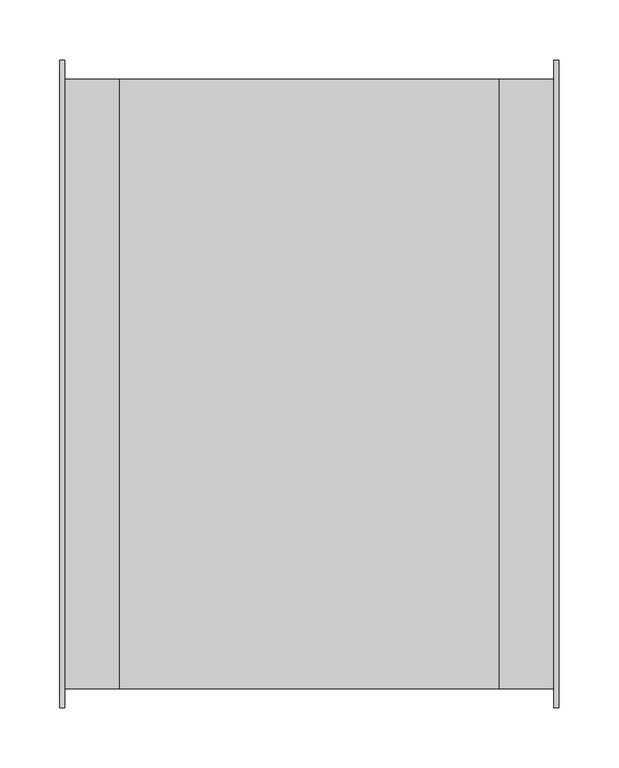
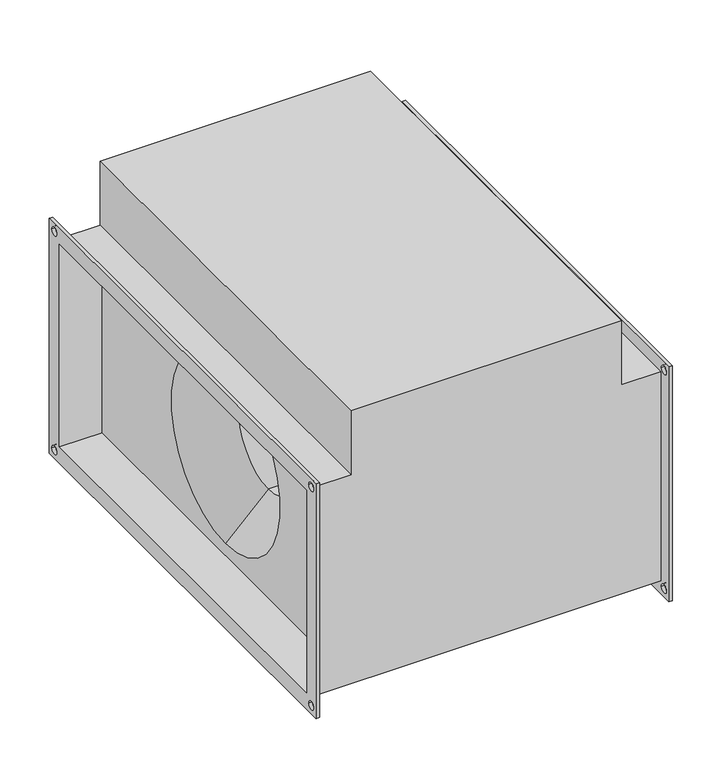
"""IFC4 building model written with IfcOpenShell, lengths in millimetres: proxy geometry, СВ_Вентилятор_КанальныйПрямоугольный_200-1000_SVPS : SVPS-500x250/22.2D."""

from ifc_helpers import new_model, si_unit, frame, origin, place, context, project, spatial, polyline, circle_curve, source, transform, mapped, element, save
from ifc_brep_helpers import plane_surface, revolved_surface, advanced_brep


def mechanical_equipment_ee68b9a7(model_context):
    return source(origin(), model_context, "Body", "AdvancedBrep", [
        advanced_brep(
        [(-204.0, -254.0, 129.0), (-158.0, -254.0, 129.0), (-158.0, 254.0, 129.0), (-204.0, 254.0, 129.0), (158.0, 254.0, 208.0), (158.0, -254.0, 208.0), (158.0, -254.0, 129.0), (158.0, 254.0, 129.0), (158.0, 250.0, -125.0), (158.0, 250.0, 125.0), (158.0, -250.0, 125.0), (158.0, -250.0, -125.0), (158.0, 0.0, 110.0), (158.0, 0.0, -110.0), (-158.0, 250.0, 125.0), (-158.0, 250.0, -125.0), (-158.0, -250.0, -125.0), (-158.0, -250.0, 125.0), (-158.0, 0.0, -110.0), (-158.0, 0.0, 110.0), (-158.0, -254.0, 208.0), (-158.0, 254.0, 208.0), (-204.0, -254.0, -129.0), (204.0, -254.0, -129.0), (204.0, -254.0, 129.0), (-204.0, 254.0, -129.0), (204.0, 254.0, -129.0), (204.0, 254.0, 129.0), (108.0, 0.0, -60.0), (108.0, 0.0, 60.0), (-108.0, 0.0, 60.0), (-108.0, 0.0, -60.0), (-208.0, -270.0, 145.0), (-208.0, 270.0, 145.0), (-208.0, 270.0, -145.0), (-208.0, -270.0, -145.0), (-208.0, -250.0, 125.0), (-208.0, -250.0, -125.0), (-208.0, 250.0, -125.0), (-208.0, 250.0, 125.0), (-208.0, 255.0, 135.0), (-208.0, 265.0, 135.0), (-208.0, -265.0, 135.0), (-208.0, -255.0, 135.0), (-208.0, -265.0, -135.0), (-208.0, -255.0, -135.0), (-208.0, 255.0, -135.0), (-208.0, 265.0, -135.0), (-204.0, -270.0, 145.0), (-204.0, -270.0, -145.0), (-204.0, 270.0, -145.0), (-204.0, 270.0, 145.0), (-204.0, 265.0, 135.0), (-204.0, 255.0, 135.0), (-204.0, -255.0, 135.0), (-204.0, -265.0, 135.0), (-204.0, -255.0, -135.0), (-204.0, -265.0, -135.0), (-204.0, 265.0, -135.0), (-204.0, 255.0, -135.0), (204.0, 270.0, 145.0), (204.0, 270.0, -145.0), (204.0, -270.0, -145.0), (204.0, -270.0, 145.0), (204.0, 255.0, 135.0), (204.0, 265.0, 135.0), (204.0, -265.0, 135.0), (204.0, -255.0, 135.0), (204.0, -265.0, -135.0), (204.0, -255.0, -135.0), (204.0, 255.0, -135.0), (204.0, 265.0, -135.0), (208.0, 270.0, 145.0), (208.0, -270.0, 145.0), (208.0, -270.0, -145.0), (208.0, 270.0, -145.0), (208.0, 250.0, 125.0), (208.0, 250.0, -125.0), (208.0, -250.0, -125.0), (208.0, -250.0, 125.0), (208.0, 265.0, 135.0), (208.0, 255.0, 135.0), (208.0, -255.0, 135.0), (208.0, -265.0, 135.0), (208.0, -255.0, -135.0), (208.0, -265.0, -135.0), (208.0, 265.0, -135.0), (208.0, 255.0, -135.0)],
        [
            (0, 1),
            (1, 2),
            (2, 3),
            (3, 0),
            (4, 5),
            (5, 6),
            (6, 7),
            (7, 4),
            (8, 9),
            (9, 10),
            (10, 11),
            (11, 8),
            (12, 13, circle_curve(frame((158.0, 0.0, 0.0), z_axis=(-1.0, 0.0, 0.0), x_axis=(0.0, 0.0, 1.0)), 110.0)),
            (13, 12, circle_curve(frame((158.0, 0.0, 0.0), z_axis=(-1.0, 0.0, 0.0), x_axis=(0.0, 0.0, 1.0)), 110.0)),
            (14, 15),
            (15, 16),
            (16, 17),
            (17, 14),
            (18, 19, circle_curve(frame((-158.0, 0.0, 0.0), z_axis=(1.0, 0.0, 0.0), x_axis=(0.0, 0.0, 1.0)), 110.0)),
            (19, 18, circle_curve(frame((-158.0, 0.0, 0.0), z_axis=(1.0, 0.0, 0.0), x_axis=(0.0, 0.0, 1.0)), 110.0)),
            (20, 21),
            (21, 2),
            (1, 20),
            (5, 20),
            (0, 22),
            (22, 23),
            (23, 24),
            (24, 6),
            (22, 25),
            (25, 26),
            (26, 23),
            (21, 4),
            (7, 27),
            (27, 26),
            (25, 3),
            (24, 27),
            (28, 13),
            (12, 29),
            (29, 28, circle_curve(frame((108.0, 0.0, 0.0), z_axis=(-1.0, 0.0, 0.0), x_axis=(0.0, 0.0, 1.0)), 60.0)),
            (28, 29, circle_curve(frame((108.0, 0.0, 0.0), z_axis=(-1.0, 0.0, 0.0), x_axis=(0.0, 0.0, 1.0)), 60.0)),
            (29, 30),
            (30, 31, circle_curve(frame((-108.0, 0.0, 0.0), z_axis=(-1.0, 0.0, 0.0), x_axis=(0.0, 0.0, 1.0)), 60.0)),
            (31, 28),
            (31, 30, circle_curve(frame((-108.0, 0.0, 0.0), z_axis=(-1.0, 0.0, 0.0), x_axis=(0.0, 0.0, 1.0)), 60.0)),
            (30, 19),
            (18, 31),
            (32, 33),
            (33, 34),
            (34, 35),
            (35, 32),
            (36, 37),
            (37, 38),
            (38, 39),
            (39, 36),
            (40, 41, circle_curve(frame((-208.0, 260.0, 135.0), z_axis=(1.0, 0.0, 0.0), x_axis=(0.0, 1.0, 0.0)), 5.0)),
            (41, 40, circle_curve(frame((-208.0, 260.0, 135.0), z_axis=(1.0, 0.0, 0.0), x_axis=(0.0, 1.0, 0.0)), 5.0)),
            (42, 43, circle_curve(frame((-208.0, -260.0, 135.0), z_axis=(1.0, 0.0, 0.0), x_axis=(0.0, 1.0, 0.0)), 5.0)),
            (43, 42, circle_curve(frame((-208.0, -260.0, 135.0), z_axis=(1.0, 0.0, 0.0), x_axis=(0.0, 1.0, 0.0)), 5.0)),
            (44, 45, circle_curve(frame((-208.0, -260.0, -135.0), z_axis=(1.0, 0.0, 0.0), x_axis=(0.0, 1.0, 0.0)), 5.0)),
            (45, 44, circle_curve(frame((-208.0, -260.0, -135.0), z_axis=(1.0, 0.0, 0.0), x_axis=(0.0, 1.0, 0.0)), 5.0)),
            (46, 47, circle_curve(frame((-208.0, 260.0, -135.0), z_axis=(1.0, 0.0, 0.0), x_axis=(0.0, 1.0, 0.0)), 5.0)),
            (47, 46, circle_curve(frame((-208.0, 260.0, -135.0), z_axis=(1.0, 0.0, 0.0), x_axis=(0.0, 1.0, 0.0)), 5.0)),
            (48, 49),
            (49, 50),
            (50, 51),
            (51, 48),
            (52, 53, circle_curve(frame((-204.0, 260.0, 135.0), z_axis=(-1.0, 0.0, 0.0), x_axis=(0.0, 1.0, 0.0)), 5.0)),
            (53, 52, circle_curve(frame((-204.0, 260.0, 135.0), z_axis=(-1.0, 0.0, 0.0), x_axis=(0.0, 1.0, 0.0)), 5.0)),
            (54, 55, circle_curve(frame((-204.0, -260.0, 135.0), z_axis=(-1.0, 0.0, 0.0), x_axis=(0.0, 1.0, 0.0)), 5.0)),
            (55, 54, circle_curve(frame((-204.0, -260.0, 135.0), z_axis=(-1.0, 0.0, 0.0), x_axis=(0.0, 1.0, 0.0)), 5.0)),
            (56, 57, circle_curve(frame((-204.0, -260.0, -135.0), z_axis=(-1.0, 0.0, 0.0), x_axis=(0.0, 1.0, 0.0)), 5.0)),
            (57, 56, circle_curve(frame((-204.0, -260.0, -135.0), z_axis=(-1.0, 0.0, 0.0), x_axis=(0.0, 1.0, 0.0)), 5.0)),
            (58, 59, circle_curve(frame((-204.0, 260.0, -135.0), z_axis=(-1.0, 0.0, 0.0), x_axis=(0.0, 1.0, 0.0)), 5.0)),
            (59, 58, circle_curve(frame((-204.0, 260.0, -135.0), z_axis=(-1.0, 0.0, 0.0), x_axis=(0.0, 1.0, 0.0)), 5.0)),
            (35, 49),
            (48, 32),
            (34, 50),
            (33, 51),
            (60, 61),
            (61, 62),
            (62, 63),
            (63, 60),
            (64, 65, circle_curve(frame((204.0, 260.0, 135.0), z_axis=(1.0, 0.0, 0.0), x_axis=(0.0, 1.0, 0.0)), 5.0)),
            (65, 64, circle_curve(frame((204.0, 260.0, 135.0), z_axis=(1.0, 0.0, 0.0), x_axis=(0.0, 1.0, 0.0)), 5.0)),
            (66, 67, circle_curve(frame((204.0, -260.0, 135.0), z_axis=(1.0, 0.0, 0.0), x_axis=(0.0, 1.0, 0.0)), 5.0)),
            (67, 66, circle_curve(frame((204.0, -260.0, 135.0), z_axis=(1.0, 0.0, 0.0), x_axis=(0.0, 1.0, 0.0)), 5.0)),
            (68, 69, circle_curve(frame((204.0, -260.0, -135.0), z_axis=(1.0, 0.0, 0.0), x_axis=(0.0, 1.0, 0.0)), 5.0)),
            (69, 68, circle_curve(frame((204.0, -260.0, -135.0), z_axis=(1.0, 0.0, 0.0), x_axis=(0.0, 1.0, 0.0)), 5.0)),
            (70, 71, circle_curve(frame((204.0, 260.0, -135.0), z_axis=(1.0, 0.0, 0.0), x_axis=(0.0, 1.0, 0.0)), 5.0)),
            (71, 70, circle_curve(frame((204.0, 260.0, -135.0), z_axis=(1.0, 0.0, 0.0), x_axis=(0.0, 1.0, 0.0)), 5.0)),
            (72, 73),
            (73, 74),
            (74, 75),
            (75, 72),
            (76, 77),
            (77, 78),
            (78, 79),
            (79, 76),
            (80, 81, circle_curve(frame((208.0, 260.0, 135.0), z_axis=(-1.0, 0.0, 0.0), x_axis=(0.0, 1.0, 0.0)), 5.0)),
            (81, 80, circle_curve(frame((208.0, 260.0, 135.0), z_axis=(-1.0, 0.0, 0.0), x_axis=(0.0, 1.0, 0.0)), 5.0)),
            (82, 83, circle_curve(frame((208.0, -260.0, 135.0), z_axis=(-1.0, 0.0, 0.0), x_axis=(0.0, 1.0, 0.0)), 5.0)),
            (83, 82, circle_curve(frame((208.0, -260.0, 135.0), z_axis=(-1.0, 0.0, 0.0), x_axis=(0.0, 1.0, 0.0)), 5.0)),
            (84, 85, circle_curve(frame((208.0, -260.0, -135.0), z_axis=(-1.0, 0.0, 0.0), x_axis=(0.0, 1.0, 0.0)), 5.0)),
            (85, 84, circle_curve(frame((208.0, -260.0, -135.0), z_axis=(-1.0, 0.0, 0.0), x_axis=(0.0, 1.0, 0.0)), 5.0)),
            (86, 87, circle_curve(frame((208.0, 260.0, -135.0), z_axis=(-1.0, 0.0, 0.0), x_axis=(0.0, 1.0, 0.0)), 5.0)),
            (87, 86, circle_curve(frame((208.0, 260.0, -135.0), z_axis=(-1.0, 0.0, 0.0), x_axis=(0.0, 1.0, 0.0)), 5.0)),
            (63, 73),
            (72, 60),
            (62, 74),
            (61, 75),
            (39, 14),
            (17, 36),
            (38, 15),
            (37, 16),
            (76, 9),
            (8, 77),
            (11, 78),
            (10, 79),
            (40, 53),
            (52, 41),
            (64, 81),
            (80, 65),
            (42, 55),
            (54, 43),
            (66, 83),
            (82, 67),
            (44, 57),
            (56, 45),
            (68, 85),
            (84, 69),
            (46, 59),
            (58, 47),
            (70, 87),
            (86, 71),
        ],
        [
            plane_surface(frame((-158.0, 254.0, 129.0), z_axis=(0.0, 0.0, 1.0), x_axis=(-1.0, 0.0, 0.0))),
            plane_surface(frame((158.0, -254.0, 208.0), z_axis=(1.0, 0.0, 0.0), x_axis=(0.0, 0.0, -1.0))),
            plane_surface(frame((-158.0, -254.0, 208.0), z_axis=(-1.0, 0.0, 0.0), x_axis=(0.0, 0.0, 1.0))),
            plane_surface(frame((158.0, -254.0, 208.0), z_axis=(0.0, -1.0, 0.0), x_axis=(-1.0, 0.0, 0.0))),
            plane_surface(frame((158.0, -254.0, -129.0), z_axis=(0.0, 0.0, -1.0), x_axis=(-1.0, 0.0, 0.0))),
            plane_surface(frame((158.0, 254.0, -129.0), z_axis=(0.0, 1.0, 0.0), x_axis=(-1.0, 0.0, 0.0))),
            plane_surface(frame((158.0, 254.0, 208.0), z_axis=(0.0, 0.0, 1.0), x_axis=(-1.0, 0.0, 0.0))),
            plane_surface(frame((204.0, 254.0, 129.0), z_axis=(0.0, 0.0, 1.0), x_axis=(-1.0, 0.0, 0.0))),
            revolved_surface(polyline([(108.0, 0.0, 60.0), (158.0, 0.0, 110.0)]), (-595.0617897, 0.0, 0.0), (-1.0, 0.0, 0.0)),
            revolved_surface(polyline([(-108.0, 0.0, 60.0), (108.0, 0.0, 60.0)]), (-595.0617897, 0.0, 0.0), (-1.0, 0.0, 0.0)),
            revolved_surface(polyline([(-158.0, 0.0, 110.0), (-108.0, 0.0, 60.0)]), (-595.0617897, 0.0, 0.0), (-1.0, 0.0, 0.0)),
            plane_surface(frame((-208.0, -270.0, 145.0), z_axis=(-1.0, 0.0, 0.0), x_axis=(0.0, 0.0, 1.0))),
            plane_surface(frame((-204.0, -270.0, 145.0), z_axis=(1.0, 0.0, 0.0), x_axis=(0.0, 0.0, -1.0))),
            plane_surface(frame((-204.0, -270.0, 145.0), z_axis=(0.0, -1.0, 0.0), x_axis=(-1.0, 0.0, 0.0))),
            plane_surface(frame((-204.0, -270.0, -145.0), z_axis=(0.0, 0.0, -1.0), x_axis=(-1.0, 0.0, 0.0))),
            plane_surface(frame((-204.0, 270.0, -145.0), z_axis=(0.0, 1.0, 0.0), x_axis=(-1.0, 0.0, 0.0))),
            plane_surface(frame((-204.0, 270.0, 145.0), z_axis=(0.0, 0.0, 1.0), x_axis=(-1.0, 0.0, 0.0))),
            plane_surface(frame((204.0, 250.0, -125.0), z_axis=(-1.0, 0.0, 0.0), x_axis=(0.0, 0.0, 1.0))),
            plane_surface(frame((208.0, 250.0, -125.0), z_axis=(1.0, 0.0, 0.0), x_axis=(0.0, 0.0, -1.0))),
            plane_surface(frame((208.0, 270.0, 145.0), z_axis=(0.0, 0.0, 1.0), x_axis=(-1.0, 0.0, 0.0))),
            plane_surface(frame((208.0, -270.0, 145.0), z_axis=(0.0, -1.0, 0.0), x_axis=(-1.0, 0.0, 0.0))),
            plane_surface(frame((208.0, -270.0, -145.0), z_axis=(0.0, 0.0, -1.0), x_axis=(-1.0, 0.0, 0.0))),
            plane_surface(frame((208.0, 270.0, -145.0), z_axis=(0.0, 1.0, 0.0), x_axis=(-1.0, 0.0, 0.0))),
            plane_surface(frame((-204.0, -250.0, 125.0), z_axis=(0.0, 0.0, -1.0), x_axis=(-1.0, 0.0, 0.0))),
            plane_surface(frame((-204.0, 250.0, 125.0), z_axis=(0.0, -1.0, 0.0), x_axis=(-1.0, 0.0, 0.0))),
            plane_surface(frame((-204.0, 250.0, -125.0), z_axis=(0.0, 0.0, 1.0), x_axis=(-1.0, 0.0, 0.0))),
            plane_surface(frame((-204.0, -250.0, -125.0), z_axis=(0.0, 1.0, 0.0), x_axis=(-1.0, 0.0, 0.0))),
            plane_surface(frame((208.0, 250.0, 125.0), z_axis=(0.0, -1.0, 0.0), x_axis=(-1.0, 0.0, 0.0))),
            plane_surface(frame((208.0, 250.0, -125.0), z_axis=(0.0, 0.0, 1.0), x_axis=(-1.0, 0.0, 0.0))),
            plane_surface(frame((208.0, -250.0, -125.0), z_axis=(0.0, 1.0, 0.0), x_axis=(-1.0, 0.0, 0.0))),
            plane_surface(frame((208.0, -250.0, 125.0), z_axis=(0.0, 0.0, -1.0), x_axis=(-1.0, 0.0, 0.0))),
            revolved_surface(polyline([(-204.0, 265.0, 135.0), (-208.0, 265.0, 135.0)]), (-208.0, 260.0, 135.0), (1.0, 0.0, 0.0)),
            revolved_surface(polyline([(208.0, 265.0, 135.0), (204.0, 265.0, 135.0)]), (-208.0, 260.0, 135.0), (1.0, 0.0, 0.0)),
            revolved_surface(polyline([(-204.0, -255.0, 135.0), (-208.0, -255.0, 135.0)]), (0.0, -260.0, 135.0), (1.0, 0.0, 0.0)),
            revolved_surface(polyline([(208.0, -255.0, 135.0), (204.0, -255.0, 135.0)]), (0.0, -260.0, 135.0), (1.0, 0.0, 0.0)),
            revolved_surface(polyline([(-204.0, -255.0, -135.0), (-208.0, -255.0, -135.0)]), (0.0, -260.0, -135.0), (1.0, 0.0, 0.0)),
            revolved_surface(polyline([(208.0, -255.0, -135.0), (204.0, -255.0, -135.0)]), (0.0, -260.0, -135.0), (1.0, 0.0, 0.0)),
            revolved_surface(polyline([(-204.0, 265.0, -135.0), (-208.0, 265.0, -135.0)]), (0.0, 260.0, -135.0), (1.0, 0.0, 0.0)),
            revolved_surface(polyline([(208.0, 265.0, -135.0), (204.0, 265.0, -135.0)]), (0.0, 260.0, -135.0), (1.0, 0.0, 0.0)),
        ],
        [
            (0, [[1, 2, 3, 4]]),
            (1, [[5, 6, 7, 8]]),
            (1, [[9, 10, 11, 12], [13, 14]]),
            (2, [[15, 16, 17, 18], [19, 20]]),
            (2, [[21, 22, -2, 23]]),
            (3, [[24, -23, -1, 25, 26, 27, 28, -6]]),
            (4, [[-26, 29, 30, 31]]),
            (5, [[32, -8, 33, 34, -30, 35, -3, -22]]),
            (6, [[-5, -32, -21, -24]]),
            (7, [[-28, 36, -33, -7]]),
            (8, [[37, -13, 38, 39]]),
            (8, [[-37, 40, -38, -14]]),
            (9, [[-39, 41, 42, 43]]),
            (9, [[-40, -43, 44, -41]]),
            (10, [[-42, 45, -19, 46]]),
            (10, [[-44, -46, -20, -45]]),
            (11, [[47, 48, 49, 50], [51, 52, 53, 54], [55, 56], [57, 58], [59, 60], [61, 62]]),
            (12, [[63, 64, 65, 66], [-25, -4, -35, -29], [67, 68], [69, 70], [71, 72], [73, 74]]),
            (13, [[-50, 75, -63, 76]]),
            (14, [[-49, 77, -64, -75]]),
            (15, [[-48, 78, -65, -77]]),
            (16, [[-47, -76, -66, -78]]),
            (17, [[79, 80, 81, 82], [-27, -31, -34, -36], [83, 84], [85, 86], [87, 88], [89, 90]]),
            (18, [[91, 92, 93, 94], [95, 96, 97, 98], [99, 100], [101, 102], [103, 104], [105, 106]]),
            (19, [[-82, 107, -91, 108]]),
            (20, [[-81, 109, -92, -107]]),
            (21, [[-80, 110, -93, -109]]),
            (22, [[-79, -108, -94, -110]]),
            (23, [[-54, 111, -18, 112]]),
            (24, [[-53, 113, -15, -111]]),
            (25, [[-52, 114, -16, -113]]),
            (26, [[-51, -112, -17, -114]]),
            (27, [[-95, 115, -9, 116]]),
            (28, [[-96, -116, -12, 117]]),
            (29, [[-97, -117, -11, 118]]),
            (30, [[-115, -98, -118, -10]]),
            (31, [[119, -67, 120, -55]]),
            (32, [[121, -99, 122, -83]]),
            (31, [[-119, -56, -120, -68]]),
            (32, [[-121, -84, -122, -100]]),
            (33, [[123, -69, 124, -57]]),
            (34, [[125, -101, 126, -85]]),
            (33, [[-123, -58, -124, -70]]),
            (34, [[-125, -86, -126, -102]]),
            (35, [[127, -71, 128, -59]]),
            (36, [[129, -103, 130, -87]]),
            (35, [[-127, -60, -128, -72]]),
            (36, [[-129, -88, -130, -104]]),
            (37, [[131, -73, 132, -61]]),
            (38, [[133, -105, 134, -89]]),
            (37, [[-131, -62, -132, -74]]),
            (38, [[-133, -90, -134, -106]]),
        ],
    ),
    ])


if __name__ == "__main__":
    model = new_model("IFC4")
    model_context = context("Model", 3, world=origin())
    ifc_project = project(units=[si_unit("LENGTHUNIT", "METRE", prefix="MILLI")], contexts=[model_context])
    site = spatial("IfcSite", under=ifc_project)
    building = spatial("IfcBuilding", under=site)
    placement = place(None, origin())
    mechanical_equipment_shape = mechanical_equipment_ee68b9a7(model_context)
    element("IfcBuildingElementProxy", 1, Name="СВ_Вентилятор_КанальныйПрямоугольный_200-1000_SVPS : SVPS-500x250/22.2D", ObjectType="СВ_Вентилятор_КанальныйПрямоугольный_200-1000_SVPS : SVPS-500x250/22.2D", at=placement, inside=building, context=model_context, shape_type="MappedRepresentation", body=[
        mapped(mechanical_equipment_shape, transform((0.0, 0.0, 0.0), x_axis=(1.0, 0.0, 0.0), y_axis=(0.0, 1.0, 0.0), z_axis=(0.0, 0.0, 1.0))),
    ])
    save(model, "model.ifc")
